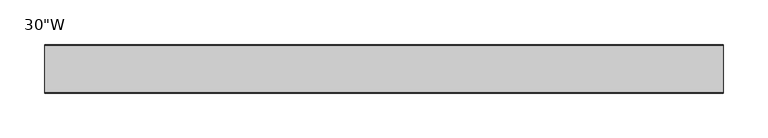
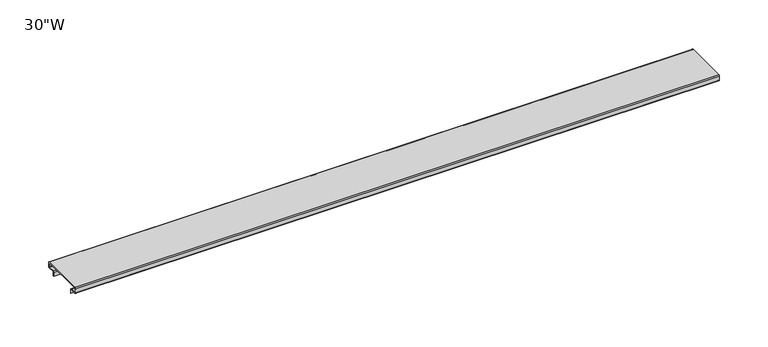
"""IFC4 building model written with IfcOpenShell, lengths in millimetres: furniture geometry."""

from ifc_helpers import new_model, si_unit, point, frame, frame_2d, origin, place, context, project, spatial, polyline, circle_curve, trimmed, segment, composite_curve, outline, extrude, source, transform, mapped, element, save


def furniture_06a7f967(model_context):
    return source(origin(), model_context, "Body", "SweptSolid", [
        extrude(outline(composite_curve([segment(trimmed(circle_curve(frame_2d((2.4497237, 9.9470946)), 0.5955237), [point((2.4497237, 10.5426182))], [point((1.8542, 9.9470946))], True, "CARTESIAN"), True, "CONTINUOUS"), segment(polyline([(1.8542, 9.9470946), (1.8542, 5.3708002)]), True, "CONTINUOUS"), segment(trimmed(circle_curve(frame_2d((2.3973822, 5.3708002)), 0.5431822), [point((1.8542, 5.3708002))], [point((2.3973822, 4.827618))], True, "CARTESIAN"), True, "CONTINUOUS"), segment(polyline([(2.3973822, 4.827618), (10.1070965, 4.827618)]), True, "CONTINUOUS"), segment(trimmed(circle_curve(frame_2d((10.1070965, 3.6880568)), 1.1395612), [point((10.1070965, 4.827618))], [point((11.2466577, 3.6880568))], False, "CARTESIAN"), True, "CONTINUOUS"), segment(polyline([(11.2466577, 3.6880568), (11.2466577, -1.2810822), (10.4648, -1.2810822), (10.4648, 3.5900342)]), True, "CONTINUOUS"), segment(trimmed(circle_curve(frame_2d((9.9237459, 3.5900342)), 0.5410541), [point((10.4648, 3.5900342))], [point((9.9271812, 4.1310774))], True, "CARTESIAN"), True, "CONTINUOUS"), segment(polyline([(9.9271812, 4.1310774), (2.2105641, 4.1800742)]), True, "CONTINUOUS"), segment(trimmed(circle_curve(frame_2d((2.21698, 5.1905339)), 1.01048), [point((2.2105641, 4.1800742))], [point((1.2065, 5.1905339))], False, "CARTESIAN"), True, "CONTINUOUS"), segment(polyline([(1.2065, 5.1905339), (1.2065, 10.153859)]), True, "CONTINUOUS"), segment(trimmed(circle_curve(frame_2d((2.2429588, 10.153859)), 1.0364588), [point((1.2065, 10.153859))], [point((2.2429588, 11.1903178))], False, "CARTESIAN"), True, "CONTINUOUS"), segment(polyline([(2.2429588, 11.1903178), (54.9025429, 11.1903178)]), True, "CONTINUOUS"), segment(trimmed(circle_curve(frame_2d((54.9025429, 10.1493596)), 1.0409582), [point((54.9025429, 11.1903178))], [point((55.9435012, 10.1493596))], False, "CARTESIAN"), True, "CONTINUOUS"), segment(polyline([(55.9435012, 10.1493596), (55.9435012, 5.1927443)]), True, "CONTINUOUS"), segment(trimmed(circle_curve(frame_2d((54.9306746, 5.1927443)), 1.0128265), [point((55.9435012, 5.1927443))], [point((54.9306746, 4.1799178))], False, "CARTESIAN"), True, "CONTINUOUS"), segment(polyline([(54.9306746, 4.1799178), (47.2463687, 4.1799178)]), True, "CONTINUOUS"), segment(trimmed(circle_curve(frame_2d((47.2463687, 3.6666936)), 0.5132242), [point((47.2463687, 4.1799178))], [point((46.7331686, 3.6716641))], True, "CARTESIAN"), True, "CONTINUOUS"), segment(polyline([(46.7331686, 3.6716641), (46.6852, -1.2810822), (45.8995796, -1.2810822), (45.8995796, 3.6413082)]), True, "CONTINUOUS"), segment(trimmed(circle_curve(frame_2d((47.0858895, 3.6413082)), 1.1863098), [point((45.8995796, 3.6413082))], [point((47.0858895, 4.827618))], False, "CARTESIAN"), True, "CONTINUOUS"), segment(polyline([(47.0858895, 4.827618), (54.7074007, 4.827618)]), True, "CONTINUOUS"), segment(trimmed(circle_curve(frame_2d((54.7074007, 5.3649738)), 0.5373558), [point((54.7074007, 4.827618))], [point((55.2447566, 5.3649738))], True, "CARTESIAN"), True, "CONTINUOUS"), segment(polyline([(55.2447566, 5.3649738), (55.2447566, 9.9453493)]), True, "CONTINUOUS"), segment(trimmed(circle_curve(frame_2d((54.6474876, 9.9453493)), 0.597269), [point((55.2447566, 9.9453493))], [point((54.6474876, 10.5426182))], True, "CARTESIAN"), True, "CONTINUOUS"), segment(polyline([(54.6474876, 10.5426182), (2.4497237, 10.5426182)]), True, "CONTINUOUS")], self_intersect=False)), frame((-381.0, 0.0, 0.0), z_axis=(1.0, 0.0, 0.0), x_axis=(0.0, 1.0, 0.0)), (0.0, 0.0, 1.0), 762.0),
    ])


if __name__ == "__main__":
    model = new_model("IFC4")
    model_context = context("Model", 3, world=origin())
    ifc_project = project(units=[si_unit("LENGTHUNIT", "METRE", prefix="MILLI")], contexts=[model_context])
    site = spatial("IfcSite", under=ifc_project)
    building = spatial("IfcBuilding", under=site)
    placement = place(None, origin())
    furniture_shape = furniture_06a7f967(model_context)
    element("IfcFurniture", 1, ObjectType="HON - Accelerate - Top Cap : 30\"W", at=placement, inside=building, context=model_context, shape_type="MappedRepresentation", body=[
        mapped(furniture_shape, transform((0.0, 0.0, 0.0), x_axis=(1.0, 0.0, 0.0), y_axis=(0.0, 1.0, 0.0), z_axis=(0.0, 0.0, 1.0))),
    ])
    save(model, "model.ifc")
